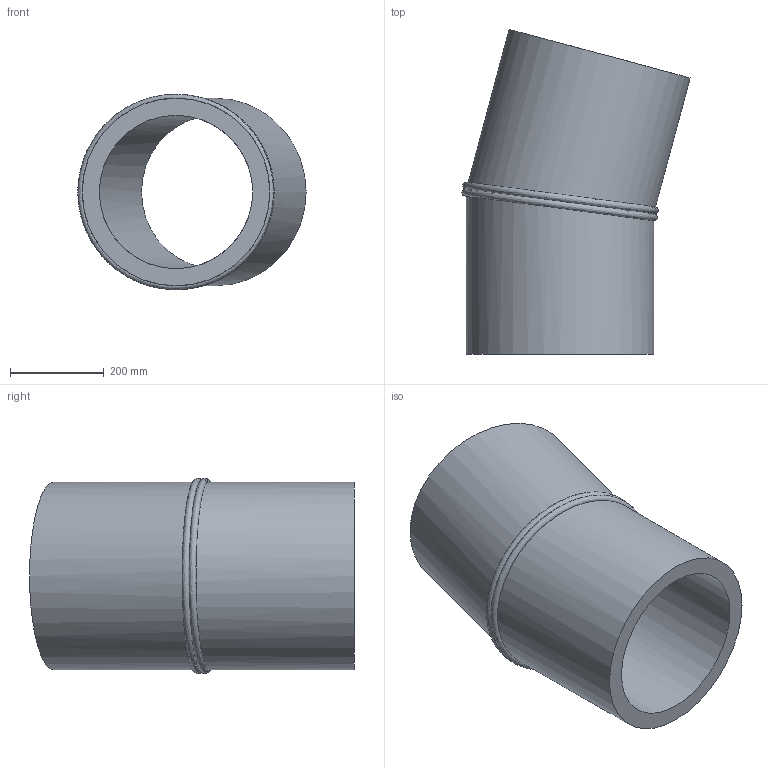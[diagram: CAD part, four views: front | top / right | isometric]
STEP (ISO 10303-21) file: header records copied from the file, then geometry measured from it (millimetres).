
FILE_DESCRIPTION(/* description */ ('Unknown'),/* implementation_level */ '2;1');
FILE_NAME(/* name */ 'Curva 15° a settore DE400 SDR11',/* time_stamp */ '2022-07-22T16:01:30+02:00',/* author */ ('Unknown'),/* organization */ ('Unknown'),/* preprocessor_version */ 'ST-DEVELOPER v18.102',/* originating_system */ 'Solid Edge',/* authorisation */ 'Unknown');
FILE_SCHEMA (('AUTOMOTIVE_DESIGN {1 0 10303 214 3 1 1}'));
Length unit declared in the file: millimetre
Products named in the file (2): Curva 15° a settore DE400 SDR11; Tubo x Gomito 15° DE400 SDR11
Assembly tree (2 placements, depth 2):
  Curva 15° a settore DE400 SDR11
    Tubo x Gomito 15° DE400 SDR11  x2
Bounding box: 487.08 x 693.31 x 416.93 mm (x, y, z)
Volume: 27333686.7 mm3; surface area: 1686823.4 mm2
Topology: 2 solids, 2 shells, 10 faces, 20 edges, 14 vertices
Faces by surface type: cylinder 4, plane 4, bspline 2
Full cylindrical faces by diameter (mm): 327.4 x2, 400 x2
Entity records: 767 total; most frequent: CARTESIAN_POINT 630, DIRECTION 20, ORIENTED_EDGE 10, EDGE_LOOP 10, FACE_BOUND 10, AXIS2_PLACEMENT_3D 10, EDGE_CURVE 5, VERTEX_POINT 5
